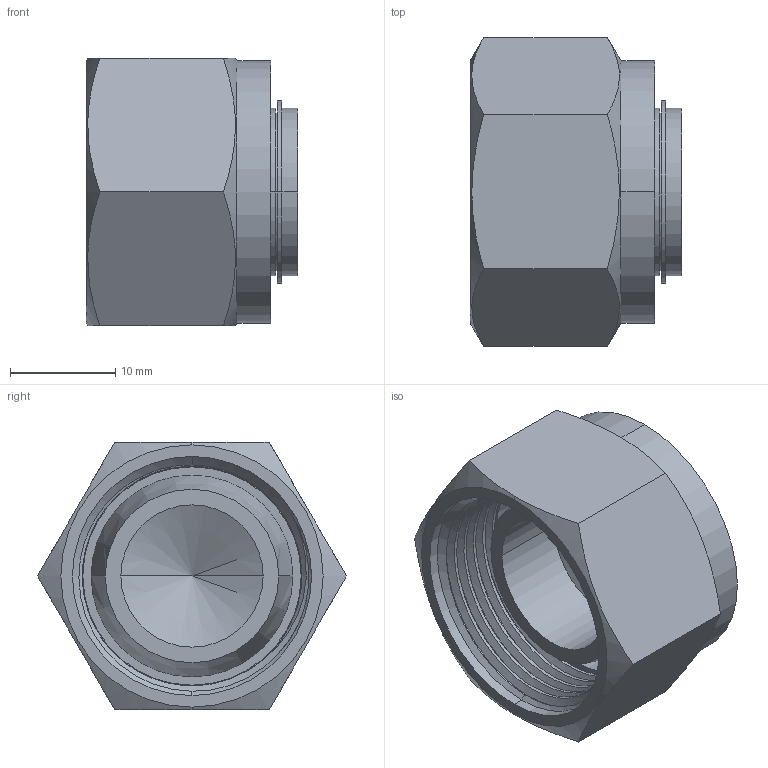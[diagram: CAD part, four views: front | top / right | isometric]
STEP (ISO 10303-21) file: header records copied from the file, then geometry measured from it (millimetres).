
FILE_DESCRIPTION (( 'STEP AP203' ), '1' );
FILE_NAME ('DBA10 SS.STEP', '2009-09-08T04:42:00', ( ' ' ), ( '' ), 'SwSTEP 2.0', 'SolidWorks 2008', '' );
FILE_SCHEMA (( 'CONFIG_CONTROL_DESIGN' ));
Length unit declared in the file: millimetre
Products named in the file (1): DBA10 SS
Bounding box: 20.08 x 29.33 x 25.4 mm (x, y, z)
Volume: 6325.3 mm3; surface area: 4660 mm2
Topology: 2 solids, 2 shells, 68 faces, 167 edges, 108 vertices
Faces by surface type: cylinder 36, plane 19, cone 10, bspline 3
Entity records: 3019 total; most frequent: CARTESIAN_POINT 1422, ORIENTED_EDGE 330, DIRECTION 305, EDGE_CURVE 165, AXIS2_PLACEMENT_3D 122, VERTEX_POINT 108, EDGE_LOOP 75, ADVANCED_FACE 68
